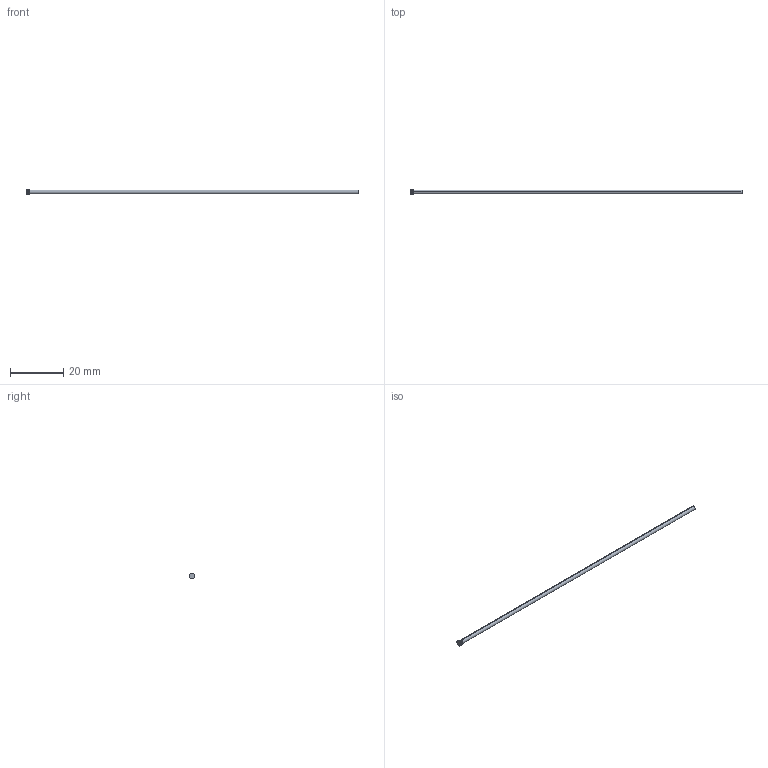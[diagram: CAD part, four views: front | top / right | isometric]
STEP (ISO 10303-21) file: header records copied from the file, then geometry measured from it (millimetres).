
FILE_DESCRIPTION (( 'STEP AP214' ), '1' );
FILE_NAME ('D-1,5x125.STEP', '2020-06-08T09:20:18', ( 'August' ), ( '' ), 'SwSTEP 2.0', 'SolidWorks 2018', '' );
FILE_SCHEMA (( 'AUTOMOTIVE_DESIGN' ));
Length unit declared in the file: millimetre
Products named in the file (1): D-1,5x125
Bounding box: 125 x 2.2 x 2.2 mm (x, y, z)
Volume: 222.5 mm3; surface area: 596.9 mm2
Topology: 1 solids, 1 shells, 10 faces, 18 edges, 10 vertices
Faces by surface type: cylinder 4, torus 2, cone 2, plane 2
Entity records: 280 total; most frequent: DIRECTION 52, CARTESIAN_POINT 39, ORIENTED_EDGE 36, AXIS2_PLACEMENT_3D 23, EDGE_CURVE 18, CIRCLE 12, EDGE_LOOP 10, FACE_OUTER_BOUND 10
